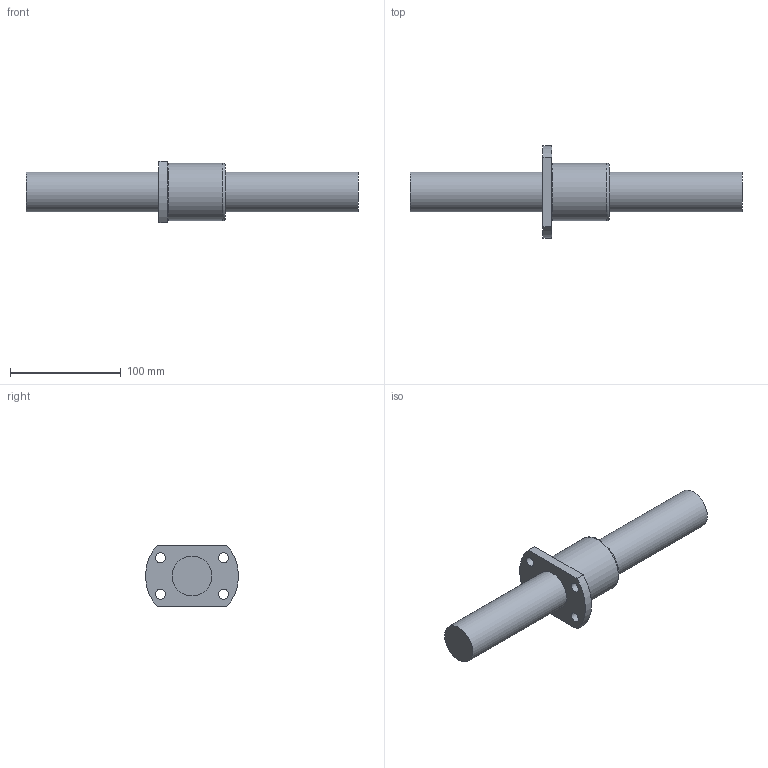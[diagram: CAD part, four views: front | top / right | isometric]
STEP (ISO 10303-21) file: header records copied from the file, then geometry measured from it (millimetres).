
FILE_DESCRIPTION((''),'2;1');
FILE_NAME('D:\製品 (図面)\カタログ用3D\ネジ関連\STEP形式\TMK\TMK36.stp','2010-06-02T15:25:58',('Tsuchiya'),(''),'Autodesk Inventor 10','Autodesk Inventor 10','');
FILE_SCHEMA(('AUTOMOTIVE_DESIGN { 1 0 10303 214 1 1 1 1 }'));
Length unit declared in the file: millimetre
Products named in the file (3): TMK36; TMK361; TMK362
Assembly tree (2 placements, depth 2):
  TMK36
    TMK361
    TMK362
Bounding box: 300 x 83.72 x 56 mm (x, y, z)
Volume: 387178.8 mm3; surface area: 60066.2 mm2
Topology: 2 solids, 2 shells, 18 faces, 41 edges, 28 vertices
Faces by surface type: plane 7, cylinder 5, bspline 5, torus 1
Full cylindrical faces by diameter (mm): 36 x2, 52 x1
Entity records: 628 total; most frequent: CARTESIAN_POINT 187, DIRECTION 84, ORIENTED_EDGE 56, AXIS2_PLACEMENT_3D 38, EDGE_LOOP 38, EDGE_CURVE 28, VERTEX_POINT 24, CIRCLE 20
